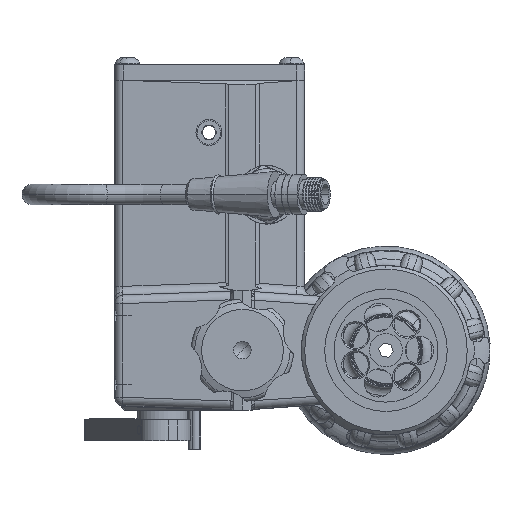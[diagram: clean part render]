
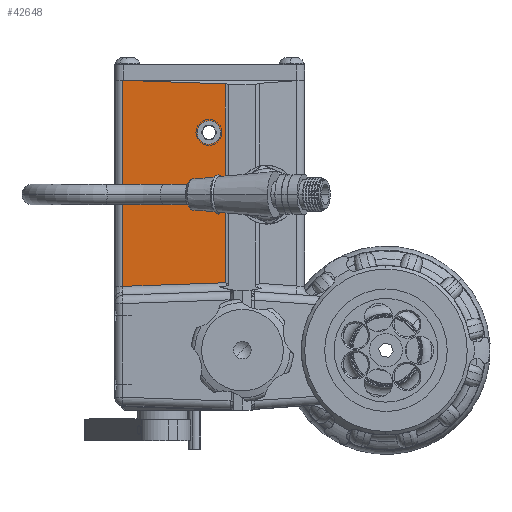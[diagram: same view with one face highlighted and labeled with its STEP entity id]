
A CAD part, left-side view. The second image highlights one B-rep face of the part: STEP entity #42648.
In plain terms, the highlighted planar face has unit normal (-0.999, 0.035, 0.001).
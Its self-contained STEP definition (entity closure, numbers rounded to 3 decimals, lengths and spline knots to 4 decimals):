
#2102 = FACE_BOUND ( 'NONE', #41394, .T. ) ;
#2105 = FACE_OUTER_BOUND ( 'NONE', #41390, .T. ) ;
#9178 = CARTESIAN_POINT ( 'NONE',  ( -2.2834, 3.8044, 0.9246 ) ) ;
#25503 = VERTEX_POINT ( 'NONE', #9178 ) ;
#25542 = VERTEX_POINT ( 'NONE', #34095 ) ;
#25544 = VERTEX_POINT ( 'NONE', #34096 ) ;
#25657 = VERTEX_POINT ( 'NONE', #34137 ) ;
#25663 = VERTEX_POINT ( 'NONE', #34139 ) ;
#25680 = VERTEX_POINT ( 'NONE', #34144 ) ;
#25687 = VERTEX_POINT ( 'NONE', #34146 ) ;
#34095 = CARTESIAN_POINT ( 'NONE',  ( -2.331, 2.3915, 3.15 ) ) ;
#34096 = CARTESIAN_POINT ( 'NONE',  ( -2.3193, 2.7285, 3.15 ) ) ;
#34137 = CARTESIAN_POINT ( 'NONE',  ( -2.2811, 3.8044, 3.9 ) ) ;
#34139 = CARTESIAN_POINT ( 'NONE',  ( -2.333, 2.3206, 3.8519 ) ) ;
#34144 = CARTESIAN_POINT ( 'NONE',  ( -2.3352, 2.3206, 0.9764 ) ) ;
#34146 = CARTESIAN_POINT ( 'NONE',  ( -2.2848, 3.6978, 3.9 ) ) ;
#39894 = AXIS2_PLACEMENT_3D ( 'NONE', #125858, #125862, #125866 ) ;
#41390 = EDGE_LOOP ( 'NONE', ( #112003, #112004, #112005, #112006, #112007 ) ) ;
#41394 = EDGE_LOOP ( 'NONE', ( #112008, #112009 ) ) ;
#42648 = ADVANCED_FACE ( 'NONE', ( #2105, #2102 ), #125864, .T. ) ;
#56347 = EDGE_CURVE ( 'NONE', #25542, #25544, #79735, .T. ) ;
#56466 = EDGE_CURVE ( 'NONE', #25544, #25542, #79846, .T. ) ;
#56470 = EDGE_CURVE ( 'NONE', #25657, #25503, #138646, .T. ) ;
#56472 = EDGE_CURVE ( 'NONE', #25680, #25663, #138649, .T. ) ;
#56474 = EDGE_CURVE ( 'NONE', #25663, #25687, #138648, .T. ) ;
#56476 = EDGE_CURVE ( 'NONE', #25687, #25657, #138651, .T. ) ;
#56478 = EDGE_CURVE ( 'NONE', #25503, #25680, #138653, .T. ) ;
#79735 =( BOUNDED_CURVE ( )  B_SPLINE_CURVE ( 3, ( #136091, #136090, #136098, #136099 ),
 .UNSPECIFIED., .F., .F. ) 
 B_SPLINE_CURVE_WITH_KNOTS ( ( 4, 4 ),
 ( 0., 3.1416 ),
 .UNSPECIFIED. ) 
 CURVE ( )  GEOMETRIC_REPRESENTATION_ITEM ( )  RATIONAL_B_SPLINE_CURVE ( ( 1., 0.333, 0.333, 1. ) ) 
 REPRESENTATION_ITEM ( '' )  );
#79846 =( BOUNDED_CURVE ( )  B_SPLINE_CURVE ( 3, ( #136285, #136286, #136290, #136291 ),
 .UNSPECIFIED., .F., .F. ) 
 B_SPLINE_CURVE_WITH_KNOTS ( ( 4, 4 ),
 ( 3.1416, 6.2832 ),
 .UNSPECIFIED. ) 
 CURVE ( )  GEOMETRIC_REPRESENTATION_ITEM ( )  RATIONAL_B_SPLINE_CURVE ( ( 1., 0.333, 0.333, 1. ) ) 
 REPRESENTATION_ITEM ( '' )  );
#112003 = ORIENTED_EDGE ( 'NONE', *, *, #56472, .T. ) ;
#112004 = ORIENTED_EDGE ( 'NONE', *, *, #56474, .T. ) ;
#112005 = ORIENTED_EDGE ( 'NONE', *, *, #56476, .T. ) ;
#112006 = ORIENTED_EDGE ( 'NONE', *, *, #56470, .T. ) ;
#112007 = ORIENTED_EDGE ( 'NONE', *, *, #56478, .T. ) ;
#112008 = ORIENTED_EDGE ( 'NONE', *, *, #56466, .F. ) ;
#112009 = ORIENTED_EDGE ( 'NONE', *, *, #56347, .F. ) ;
#125858 = CARTESIAN_POINT ( 'NONE',  ( -2.3414, 2.075, 3.9951 ) ) ;
#125862 = DIRECTION ( 'NONE',  ( -0.999, 0.035, 0.001 ) ) ;
#125864 = PLANE ( 'NONE',  #39894 ) ;
#125866 = DIRECTION ( 'NONE',  ( 0.035, 0.999, 0. ) ) ;
#136090 = CARTESIAN_POINT ( 'NONE',  ( -2.3308, 2.3915, 3.487 ) ) ;
#136091 = CARTESIAN_POINT ( 'NONE',  ( -2.331, 2.3915, 3.15 ) ) ;
#136098 = CARTESIAN_POINT ( 'NONE',  ( -2.319, 2.7285, 3.487 ) ) ;
#136099 = CARTESIAN_POINT ( 'NONE',  ( -2.3193, 2.7285, 3.15 ) ) ;
#136285 = CARTESIAN_POINT ( 'NONE',  ( -2.3193, 2.7285, 3.15 ) ) ;
#136286 = CARTESIAN_POINT ( 'NONE',  ( -2.3195, 2.7285, 2.813 ) ) ;
#136290 = CARTESIAN_POINT ( 'NONE',  ( -2.3313, 2.3915, 2.813 ) ) ;
#136291 = CARTESIAN_POINT ( 'NONE',  ( -2.331, 2.3915, 3.15 ) ) ;
#136292 = CARTESIAN_POINT ( 'NONE',  ( -2.2835, 3.8044, 0.7954 ) ) ;
#136293 = CARTESIAN_POINT ( 'NONE',  ( -2.3329, 2.3206, 3.9951 ) ) ;
#136299 = DIRECTION ( 'NONE',  ( -0.001, 0., -1. ) ) ;
#136301 = DIRECTION ( 'NONE',  ( 0.001, 0., 1. ) ) ;
#136302 = CARTESIAN_POINT ( 'NONE',  ( -2.3414, 2.0803, 3.8435 ) ) ;
#136303 = DIRECTION ( 'NONE',  ( 0.035, 0.999, 0.035 ) ) ;
#136304 = CARTESIAN_POINT ( 'NONE',  ( -2.3415, 2.075, 3.9 ) ) ;
#136305 = DIRECTION ( 'NONE',  ( 0.035, 0.999, 0. ) ) ;
#136306 = CARTESIAN_POINT ( 'NONE',  ( -2.3436, 2.0794, 0.9849 ) ) ;
#136307 = DIRECTION ( 'NONE',  ( -0.035, -0.999, 0.035 ) ) ;
#138646 = LINE ( 'NONE', #136292, #138647 ) ;
#138647 = VECTOR ( 'NONE', #136299, 39.3701 ) ;
#138648 = LINE ( 'NONE', #136302, #138652 ) ;
#138649 = LINE ( 'NONE', #136293, #138650 ) ;
#138650 = VECTOR ( 'NONE', #136301, 39.3701 ) ;
#138651 = LINE ( 'NONE', #136304, #138654 ) ;
#138652 = VECTOR ( 'NONE', #136303, 39.3701 ) ;
#138653 = LINE ( 'NONE', #136306, #138656 ) ;
#138654 = VECTOR ( 'NONE', #136305, 39.3701 ) ;
#138656 = VECTOR ( 'NONE', #136307, 39.3701 ) ;
